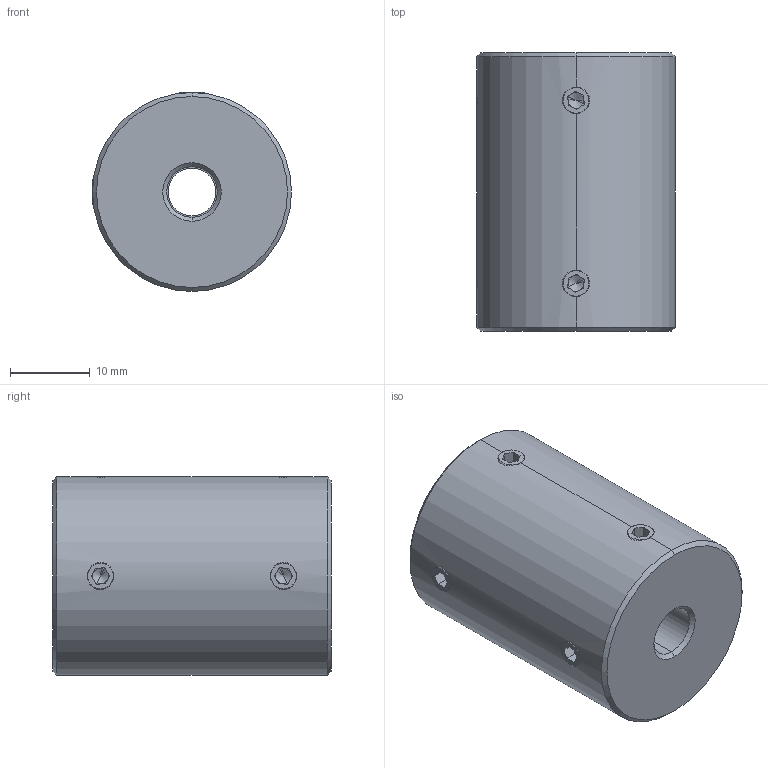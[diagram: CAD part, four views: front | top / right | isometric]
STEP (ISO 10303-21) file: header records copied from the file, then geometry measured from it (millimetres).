
FILE_DESCRIPTION (( 'STEP AP214' ), '1' );
FILE_NAME ('LL-D-D25L35-6-6.35½¨Ä£.STEP', '2022-07-23T00:35:44', ( '' ), ( '' ), 'SwSTEP 2.0', 'SolidWorks 2022', '' );
FILE_SCHEMA (( 'AUTOMOTIVE_DESIGN' ));
Length unit declared in the file: millimetre
Products named in the file (1): LL-D-D25L35-6-6.35膘耀
Bounding box: 25 x 35 x 25 mm (x, y, z)
Volume: 15892.7 mm3; surface area: 4595.9 mm2
Topology: 1 solids, 1 shells, 113 faces, 286 edges, 176 vertices
Faces by surface type: plane 59, cone 32, cylinder 22
Entity records: 3714 total; most frequent: CARTESIAN_POINT 1004, DIRECTION 558, ORIENTED_EDGE 556, EDGE_CURVE 278, AXIS2_PLACEMENT_3D 206, VERTEX_POINT 176, LINE 146, VECTOR 146
